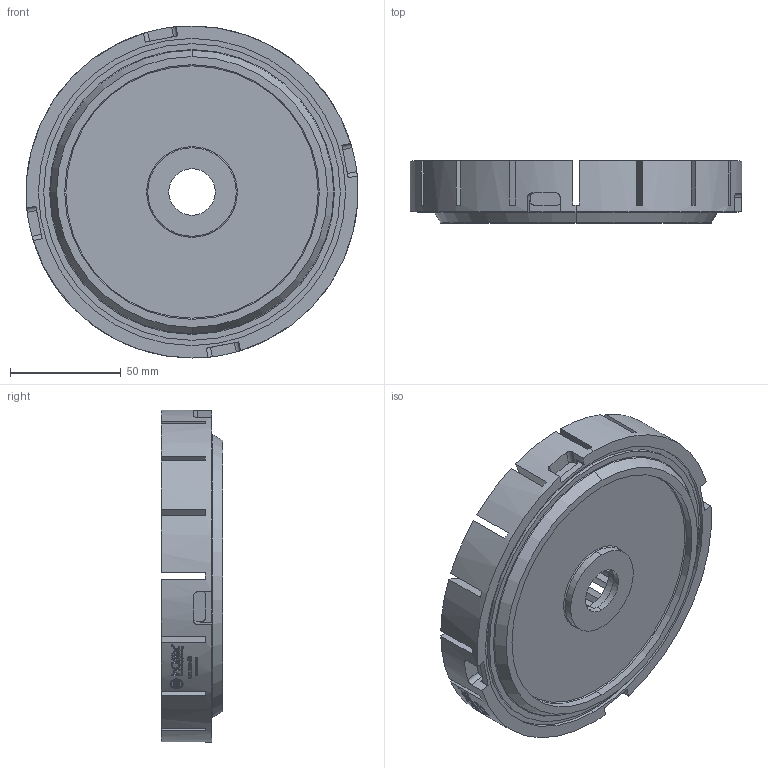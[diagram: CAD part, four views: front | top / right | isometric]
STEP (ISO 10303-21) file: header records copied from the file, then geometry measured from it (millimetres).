
FILE_DESCRIPTION (( 'STEP AP203' ), '1' );
FILE_NAME ('CR150 S-23.STEP', '2016-06-15T13:38:05', ( '' ), ( '' ), 'SwSTEP 2.0', 'SolidWorks 2016', '' );
FILE_SCHEMA (( 'CONFIG_CONTROL_DESIGN' ));
Length unit declared in the file: millimetre
Products named in the file (1): CR150 S-23
Bounding box: 150 x 28 x 150 mm (x, y, z)
Volume: 352571.8 mm3; surface area: 90159.6 mm2
Topology: 1 solids, 1 shells, 1994 faces, 5683 edges, 3787 vertices
Faces by surface type: plane 1593, cylinder 391, torus 8, cone 2
Entity records: 65741 total; most frequent: CARTESIAN_POINT 17170, ORIENTED_EDGE 11366, DIRECTION 8737, EDGE_CURVE 5683, VERTEX_POINT 3787, LINE 3571, VECTOR 3571, AXIS2_PLACEMENT_3D 2583
